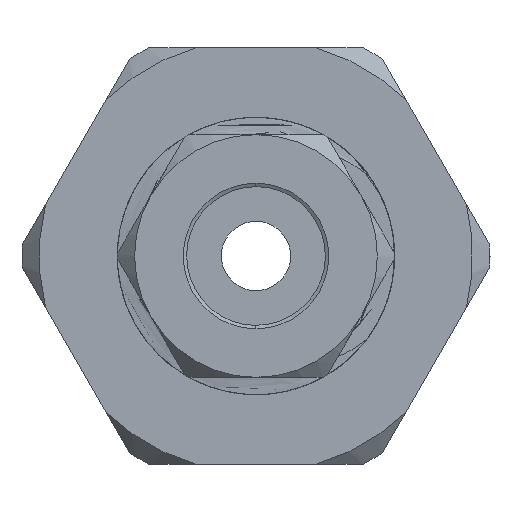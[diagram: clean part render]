
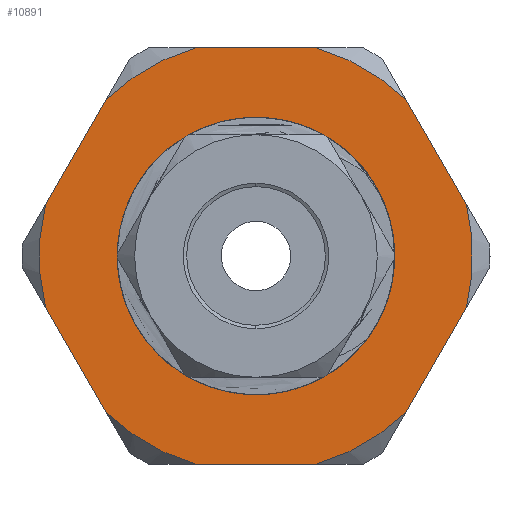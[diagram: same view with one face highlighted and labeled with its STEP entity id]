
A CAD part, front view. The second image highlights one B-rep face of the part: STEP entity #10891.
In plain terms, the highlighted planar face has unit normal (0, -1, 0).
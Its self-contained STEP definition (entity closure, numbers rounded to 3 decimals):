
#146 = CARTESIAN_POINT ( 'NONE',  ( -0.355, 9.325, 14. ) ) ;
#323 = AXIS2_PLACEMENT_3D ( 'NONE', #9114, #3236, #10125 ) ;
#337 = LINE ( 'NONE', #2922, #10476 ) ;
#506 = DIRECTION ( 'NONE',  ( 0.866, 0., 0.5 ) ) ;
#510 = CARTESIAN_POINT ( 'NONE',  ( -4.676, 9.325, 18.516 ) ) ;
#835 = DIRECTION ( 'NONE',  ( 0., 1., 0. ) ) ;
#867 = EDGE_CURVE ( 'NONE', #10258, #9933, #9430, .T. ) ;
#918 = AXIS2_PLACEMENT_3D ( 'NONE', #4389, #11255, #5363 ) ;
#962 = CIRCLE ( 'NONE', #12646, 6.25 ) ;
#1032 = DIRECTION ( 'NONE',  ( -0.5, 0., -0.866 ) ) ;
#1152 = DIRECTION ( 'NONE',  ( 0.866, 0., 0.5 ) ) ;
#1187 = VECTOR ( 'NONE', #10358, 1000. ) ;
#1348 = CIRCLE ( 'NONE', #918, 6.25 ) ;
#1442 = VERTEX_POINT ( 'NONE', #4569 ) ;
#1616 = FACE_BOUND ( 'NONE', #12020, .T. ) ;
#1730 = CARTESIAN_POINT ( 'NONE',  ( 5.716, 9.325, 15.484 ) ) ;
#1743 = LINE ( 'NONE', #2115, #9555 ) ;
#1785 = ORIENTED_EDGE ( 'NONE', *, *, #9826, .F. ) ;
#1797 = VECTOR ( 'NONE', #2917, 1000. ) ;
#1987 = CARTESIAN_POINT ( 'NONE',  ( 2.737, 9.325, 20. ) ) ;
#2115 = CARTESIAN_POINT ( 'NONE',  ( -3.447, 9.325, 8. ) ) ;
#2240 = VERTEX_POINT ( 'NONE', #2360 ) ;
#2281 = VECTOR ( 'NONE', #11380, 1000. ) ;
#2317 = AXIS2_PLACEMENT_3D ( 'NONE', #11424, #835, #5287 ) ;
#2360 = CARTESIAN_POINT ( 'NONE',  ( 3.966, 9.325, 18.516 ) ) ;
#2503 = ORIENTED_EDGE ( 'NONE', *, *, #3033, .F. ) ;
#2917 = DIRECTION ( 'NONE',  ( 0.5, 0., -0.866 ) ) ;
#2922 = CARTESIAN_POINT ( 'NONE',  ( 3.295, 9.325, 8.322 ) ) ;
#3010 = DIRECTION ( 'NONE',  ( 0., 1., 0. ) ) ;
#3033 = EDGE_CURVE ( 'NONE', #5553, #10245, #7348, .T. ) ;
#3037 = DIRECTION ( 'NONE',  ( -1., 0., 0. ) ) ;
#3074 = VERTEX_POINT ( 'NONE', #510 ) ;
#3086 = CARTESIAN_POINT ( 'NONE',  ( -0.355, 9.325, 14. ) ) ;
#3204 = EDGE_CURVE ( 'NONE', #10320, #3074, #7166, .T. ) ;
#3236 = DIRECTION ( 'NONE',  ( 0., -1., 0. ) ) ;
#3251 = ORIENTED_EDGE ( 'NONE', *, *, #6989, .F. ) ;
#3262 = CARTESIAN_POINT ( 'NONE',  ( -4.676, 9.325, 9.484 ) ) ;
#3307 = CIRCLE ( 'NONE', #12256, 6.25 ) ;
#3444 = ORIENTED_EDGE ( 'NONE', *, *, #867, .F. ) ;
#3814 = CARTESIAN_POINT ( 'NONE',  ( -3.386, 9.325, 12.25 ) ) ;
#3893 = FACE_OUTER_BOUND ( 'NONE', #10578, .T. ) ;
#3910 = EDGE_CURVE ( 'NONE', #3074, #10258, #3307, .T. ) ;
#4015 = CARTESIAN_POINT ( 'NONE',  ( -0.355, 9.325, 14. ) ) ;
#4071 = DIRECTION ( 'NONE',  ( 0.866, 0., 0.5 ) ) ;
#4122 = CARTESIAN_POINT ( 'NONE',  ( 5.716, 9.325, 12.516 ) ) ;
#4177 = VECTOR ( 'NONE', #7872, 1000. ) ;
#4389 = CARTESIAN_POINT ( 'NONE',  ( -0.355, 9.325, 14. ) ) ;
#4411 = AXIS2_PLACEMENT_3D ( 'NONE', #4015, #10875, #5004 ) ;
#4569 = CARTESIAN_POINT ( 'NONE',  ( -2.105, 9.325, 8. ) ) ;
#4668 = VERTEX_POINT ( 'NONE', #12173 ) ;
#4712 = VERTEX_POINT ( 'NONE', #9326 ) ;
#4807 = CIRCLE ( 'NONE', #9015, 3.5 ) ;
#4897 = CARTESIAN_POINT ( 'NONE',  ( -0.355, 9.325, 14. ) ) ;
#4958 = ORIENTED_EDGE ( 'NONE', *, *, #3204, .F. ) ;
#5004 = DIRECTION ( 'NONE',  ( 0.866, 0., 0.5 ) ) ;
#5167 = ORIENTED_EDGE ( 'NONE', *, *, #9082, .F. ) ;
#5287 = DIRECTION ( 'NONE',  ( 0.866, 0., 0.5 ) ) ;
#5363 = DIRECTION ( 'NONE',  ( 0.866, 0., 0.5 ) ) ;
#5428 = ORIENTED_EDGE ( 'NONE', *, *, #3910, .F. ) ;
#5553 = VERTEX_POINT ( 'NONE', #7803 ) ;
#5599 = EDGE_CURVE ( 'NONE', #10486, #11680, #10925, .T. ) ;
#5800 = EDGE_CURVE ( 'NONE', #4712, #8768, #4807, .T. ) ;
#5854 = CIRCLE ( 'NONE', #7092, 6.25 ) ;
#5873 = DIRECTION ( 'NONE',  ( 0.866, 0., 0.5 ) ) ;
#5969 = VERTEX_POINT ( 'NONE', #3262 ) ;
#6212 = ORIENTED_EDGE ( 'NONE', *, *, #10251, .F. ) ;
#6352 = DIRECTION ( 'NONE',  ( 0., 1., 0. ) ) ;
#6779 = ORIENTED_EDGE ( 'NONE', *, *, #11706, .F. ) ;
#6792 = EDGE_CURVE ( 'NONE', #1442, #5969, #5854, .T. ) ;
#6939 = EDGE_CURVE ( 'NONE', #11680, #5553, #337, .T. ) ;
#6957 = DIRECTION ( 'NONE',  ( 0., 1., 0. ) ) ;
#6989 = EDGE_CURVE ( 'NONE', #10245, #1442, #1743, .T. ) ;
#7092 = AXIS2_PLACEMENT_3D ( 'NONE', #4897, #11747, #5873 ) ;
#7166 = LINE ( 'NONE', #9381, #2281 ) ;
#7348 = CIRCLE ( 'NONE', #2317, 6.25 ) ;
#7459 = AXIS2_PLACEMENT_3D ( 'NONE', #8888, #3010, #9903 ) ;
#7787 = ORIENTED_EDGE ( 'NONE', *, *, #6939, .F. ) ;
#7803 = CARTESIAN_POINT ( 'NONE',  ( 3.966, 9.325, 9.484 ) ) ;
#7872 = DIRECTION ( 'NONE',  ( 1., 0., 0. ) ) ;
#8309 = ORIENTED_EDGE ( 'NONE', *, *, #5800, .F. ) ;
#8370 = CARTESIAN_POINT ( 'NONE',  ( -5.551, 9.325, 11. ) ) ;
#8455 = CIRCLE ( 'NONE', #323, 3.5 ) ;
#8768 = VERTEX_POINT ( 'NONE', #3814 ) ;
#8809 = ORIENTED_EDGE ( 'NONE', *, *, #5599, .F. ) ;
#8888 = CARTESIAN_POINT ( 'NONE',  ( -8.714, 9.325, 16.478 ) ) ;
#8966 = LINE ( 'NONE', #8370, #1187 ) ;
#9015 = AXIS2_PLACEMENT_3D ( 'NONE', #3086, #9976, #4071 ) ;
#9082 = EDGE_CURVE ( 'NONE', #9933, #2240, #1348, .T. ) ;
#9114 = CARTESIAN_POINT ( 'NONE',  ( -0.355, 9.325, 14. ) ) ;
#9326 = CARTESIAN_POINT ( 'NONE',  ( 2.676, 9.325, 15.75 ) ) ;
#9381 = CARTESIAN_POINT ( 'NONE',  ( -4.005, 9.325, 19.678 ) ) ;
#9430 = LINE ( 'NONE', #1987, #4177 ) ;
#9555 = VECTOR ( 'NONE', #3037, 1000. ) ;
#9816 = CARTESIAN_POINT ( 'NONE',  ( 4.841, 9.325, 17. ) ) ;
#9826 = EDGE_CURVE ( 'NONE', #5969, #4668, #8966, .T. ) ;
#9903 = DIRECTION ( 'NONE',  ( 0.866, 0., 0.5 ) ) ;
#9933 = VERTEX_POINT ( 'NONE', #12302 ) ;
#9976 = DIRECTION ( 'NONE',  ( 0., -1., 0. ) ) ;
#10125 = DIRECTION ( 'NONE',  ( 0.866, 0., 0.5 ) ) ;
#10142 = ORIENTED_EDGE ( 'NONE', *, *, #6792, .F. ) ;
#10245 = VERTEX_POINT ( 'NONE', #10779 ) ;
#10251 = EDGE_CURVE ( 'NONE', #2240, #10486, #11859, .T. ) ;
#10258 = VERTEX_POINT ( 'NONE', #10815 ) ;
#10285 = ORIENTED_EDGE ( 'NONE', *, *, #12622, .F. ) ;
#10320 = VERTEX_POINT ( 'NONE', #12099 ) ;
#10358 = DIRECTION ( 'NONE',  ( -0.5, 0., 0.866 ) ) ;
#10476 = VECTOR ( 'NONE', #1032, 1000. ) ;
#10486 = VERTEX_POINT ( 'NONE', #1730 ) ;
#10578 = EDGE_LOOP ( 'NONE', ( #2503, #7787, #8809, #6212, #5167, #3444, #5428, #4958, #10285, #1785, #10142, #3251 ) ) ;
#10779 = CARTESIAN_POINT ( 'NONE',  ( 1.395, 9.325, 8. ) ) ;
#10815 = CARTESIAN_POINT ( 'NONE',  ( -2.105, 9.325, 20. ) ) ;
#10827 = PLANE ( 'NONE',  #7459 ) ;
#10875 = DIRECTION ( 'NONE',  ( 0., 1., 0. ) ) ;
#10891 = ADVANCED_FACE ( 'NONE', ( #1616, #3893 ), #10827, .F. ) ;
#10925 = CIRCLE ( 'NONE', #4411, 6.25 ) ;
#11255 = DIRECTION ( 'NONE',  ( 0., 1., 0. ) ) ;
#11380 = DIRECTION ( 'NONE',  ( 0.5, 0., 0.866 ) ) ;
#11424 = CARTESIAN_POINT ( 'NONE',  ( -0.355, 9.325, 14. ) ) ;
#11680 = VERTEX_POINT ( 'NONE', #4122 ) ;
#11706 = EDGE_CURVE ( 'NONE', #8768, #4712, #8455, .T. ) ;
#11747 = DIRECTION ( 'NONE',  ( 0., 1., 0. ) ) ;
#11859 = LINE ( 'NONE', #9816, #1797 ) ;
#12020 = EDGE_LOOP ( 'NONE', ( #8309, #6779 ) ) ;
#12099 = CARTESIAN_POINT ( 'NONE',  ( -6.426, 9.325, 15.484 ) ) ;
#12173 = CARTESIAN_POINT ( 'NONE',  ( -6.426, 9.325, 12.516 ) ) ;
#12231 = CARTESIAN_POINT ( 'NONE',  ( -0.355, 9.325, 14. ) ) ;
#12256 = AXIS2_PLACEMENT_3D ( 'NONE', #12231, #6352, #506 ) ;
#12302 = CARTESIAN_POINT ( 'NONE',  ( 1.395, 9.325, 20. ) ) ;
#12622 = EDGE_CURVE ( 'NONE', #4668, #10320, #962, .T. ) ;
#12646 = AXIS2_PLACEMENT_3D ( 'NONE', #146, #6957, #1152 ) ;
